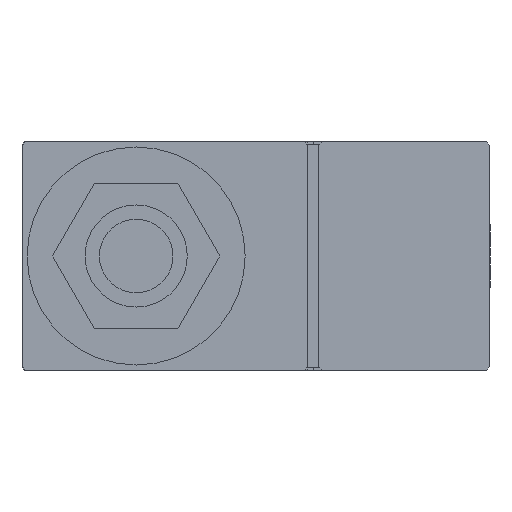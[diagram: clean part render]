
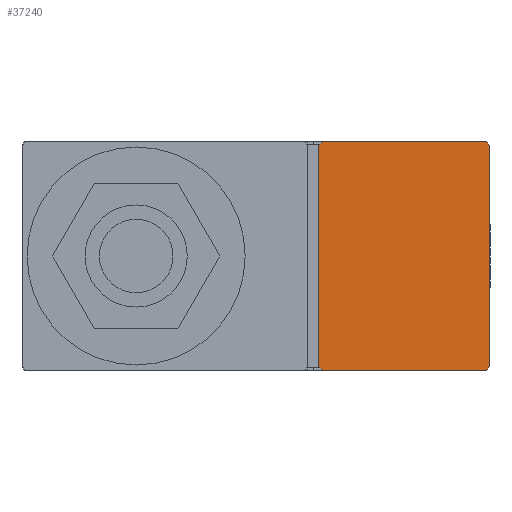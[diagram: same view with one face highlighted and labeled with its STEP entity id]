
A CAD part, left-side view. The second image highlights one B-rep face of the part: STEP entity #37240.
In plain terms, the highlighted planar face has unit normal (-1, 0, 0).
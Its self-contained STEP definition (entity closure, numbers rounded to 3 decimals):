
#658 = ORIENTED_EDGE ( 'NONE', *, *, #36395, .F. ) ;
#1287 = CARTESIAN_POINT ( 'NONE',  ( -135., -16.5, 10. ) ) ;
#1353 = CARTESIAN_POINT ( 'NONE',  ( -135., -16.5, -9.7 ) ) ;
#2124 = CARTESIAN_POINT ( 'NONE',  ( -135., -16.5, -10. ) ) ;
#2507 = CARTESIAN_POINT ( 'NONE',  ( -135., -31.2, 10. ) ) ;
#2813 = EDGE_LOOP ( 'NONE', ( #658, #36215, #33579, #23365, #22518, #3144, #16804, #22633 ) ) ;
#3144 = ORIENTED_EDGE ( 'NONE', *, *, #16169, .T. ) ;
#4454 = DIRECTION ( 'NONE',  ( 0., -0.707, 0.707 ) ) ;
#5077 = CARTESIAN_POINT ( 'NONE',  ( -135., -31.2, -10. ) ) ;
#5401 = CARTESIAN_POINT ( 'NONE',  ( -135., -16.8, -10. ) ) ;
#6524 = VECTOR ( 'NONE', #4454, 1000. ) ;
#7142 = LINE ( 'NONE', #27431, #20777 ) ;
#7302 = CARTESIAN_POINT ( 'NONE',  ( -135., -16.8, 10. ) ) ;
#9647 = VECTOR ( 'NONE', #41210, 1000. ) ;
#10450 = CARTESIAN_POINT ( 'NONE',  ( -135., -31.2, -10. ) ) ;
#10822 = LINE ( 'NONE', #23841, #12039 ) ;
#12039 = VECTOR ( 'NONE', #27268, 1000. ) ;
#14197 = FACE_OUTER_BOUND ( 'NONE', #2813, .T. ) ;
#14581 = DIRECTION ( 'NONE',  ( 0., 0.707, 0.707 ) ) ;
#14856 = VERTEX_POINT ( 'NONE', #10450 ) ;
#14898 = AXIS2_PLACEMENT_3D ( 'NONE', #15845, #18826, #22450 ) ;
#15845 = CARTESIAN_POINT ( 'NONE',  ( -135., -24., 0. ) ) ;
#15927 = CARTESIAN_POINT ( 'NONE',  ( -135., -16.5, 10. ) ) ;
#16169 = EDGE_CURVE ( 'NONE', #32017, #14856, #34586, .T. ) ;
#16804 = ORIENTED_EDGE ( 'NONE', *, *, #35471, .T. ) ;
#17472 = LINE ( 'NONE', #1287, #40490 ) ;
#18681 = CARTESIAN_POINT ( 'NONE',  ( -135., -31.5, 10. ) ) ;
#18826 = DIRECTION ( 'NONE',  ( 1., 0., 0. ) ) ;
#20029 = CARTESIAN_POINT ( 'NONE',  ( -135., -16.5, 9.7 ) ) ;
#20777 = VECTOR ( 'NONE', #14581, 1000. ) ;
#20950 = VECTOR ( 'NONE', #32641, 1000. ) ;
#22082 = EDGE_CURVE ( 'NONE', #34106, #39882, #35159, .T. ) ;
#22450 = DIRECTION ( 'NONE',  ( 0., 1., 0. ) ) ;
#22518 = ORIENTED_EDGE ( 'NONE', *, *, #33551, .F. ) ;
#22633 = ORIENTED_EDGE ( 'NONE', *, *, #33604, .T. ) ;
#23365 = ORIENTED_EDGE ( 'NONE', *, *, #30340, .T. ) ;
#23841 = CARTESIAN_POINT ( 'NONE',  ( -135., -31.2, 10. ) ) ;
#24020 = EDGE_CURVE ( 'NONE', #37010, #39882, #31585, .T. ) ;
#24318 = DIRECTION ( 'NONE',  ( 0., 0., -1. ) ) ;
#25760 = DIRECTION ( 'NONE',  ( 0., 1., 0. ) ) ;
#26647 = CARTESIAN_POINT ( 'NONE',  ( -135., -31.5, -9.7 ) ) ;
#27268 = DIRECTION ( 'NONE',  ( 0., -0.707, -0.707 ) ) ;
#27431 = CARTESIAN_POINT ( 'NONE',  ( -135., -16.8, -10. ) ) ;
#27893 = DIRECTION ( 'NONE',  ( 0., 0., 1. ) ) ;
#27939 = LINE ( 'NONE', #5077, #6524 ) ;
#29973 = VERTEX_POINT ( 'NONE', #32578 ) ;
#30316 = VECTOR ( 'NONE', #27893, 1000. ) ;
#30340 = EDGE_CURVE ( 'NONE', #37010, #42086, #17472, .T. ) ;
#30598 = VERTEX_POINT ( 'NONE', #26647 ) ;
#31302 = LINE ( 'NONE', #18681, #30316 ) ;
#31585 = LINE ( 'NONE', #20029, #20950 ) ;
#32017 = VERTEX_POINT ( 'NONE', #5401 ) ;
#32578 = CARTESIAN_POINT ( 'NONE',  ( -135., -31.5, 9.7 ) ) ;
#32641 = DIRECTION ( 'NONE',  ( 0., -0.707, 0.707 ) ) ;
#33315 = CARTESIAN_POINT ( 'NONE',  ( -135., -16.5, 9.7 ) ) ;
#33551 = EDGE_CURVE ( 'NONE', #32017, #42086, #7142, .T. ) ;
#33579 = ORIENTED_EDGE ( 'NONE', *, *, #24020, .F. ) ;
#33604 = EDGE_CURVE ( 'NONE', #30598, #29973, #31302, .T. ) ;
#34106 = VERTEX_POINT ( 'NONE', #2507 ) ;
#34586 = LINE ( 'NONE', #2124, #9647 ) ;
#35159 = LINE ( 'NONE', #15927, #37231 ) ;
#35471 = EDGE_CURVE ( 'NONE', #14856, #30598, #27939, .T. ) ;
#35491 = PLANE ( 'NONE',  #14898 ) ;
#36215 = ORIENTED_EDGE ( 'NONE', *, *, #22082, .T. ) ;
#36395 = EDGE_CURVE ( 'NONE', #34106, #29973, #10822, .T. ) ;
#37010 = VERTEX_POINT ( 'NONE', #33315 ) ;
#37231 = VECTOR ( 'NONE', #25760, 1000. ) ;
#37240 = ADVANCED_FACE ( 'NONE', ( #14197 ), #35491, .F. ) ;
#39882 = VERTEX_POINT ( 'NONE', #7302 ) ;
#40490 = VECTOR ( 'NONE', #24318, 1000. ) ;
#41210 = DIRECTION ( 'NONE',  ( 0., -1., 0. ) ) ;
#42086 = VERTEX_POINT ( 'NONE', #1353 ) ;
